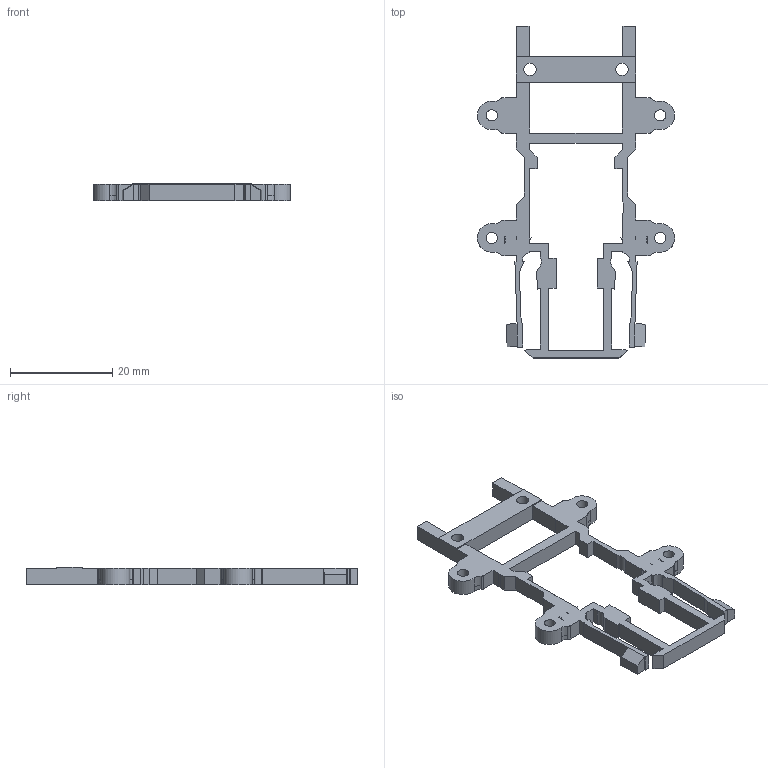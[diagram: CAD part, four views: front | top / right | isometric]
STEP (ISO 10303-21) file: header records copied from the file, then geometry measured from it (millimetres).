
FILE_DESCRIPTION(('Open CASCADE Model'),'2;1');
FILE_NAME('Open CASCADE Shape Model','2026-10-12T14:05:17',('Author'),( 'Open CASCADE'),'Open CASCADE STEP processor 7.9','Open CASCADE 7.9' ,'Unknown');
FILE_SCHEMA(('AUTOMOTIVE_DESIGN { 1 0 10303 214 1 1 1 1 }'));
Length unit declared in the file: millimetre
Products named in the file (1): Open CASCADE STEP translator 7.9 2
Bounding box: 38.6 x 65 x 3.4 mm (x, y, z)
Volume: 2109.3 mm3; surface area: 3139 mm2
Topology: 1 solids, 1 shells, 196 faces, 565 edges, 376 vertices
Faces by surface type: plane 146, cylinder 34, extrusion 8, bspline 8
Full cylindrical faces by diameter (mm): 2.2 x4, 2.4 x2, 4.1 x2
Entity records: 14827 total; most frequent: CARTESIAN_POINT 3694, DIRECTION 1984, VECTOR 1435, LINE 1427, ORIENTED_EDGE 1130, PCURVE 1130, DEFINITIONAL_REPRESENTATION 1130, EDGE_CURVE 565
